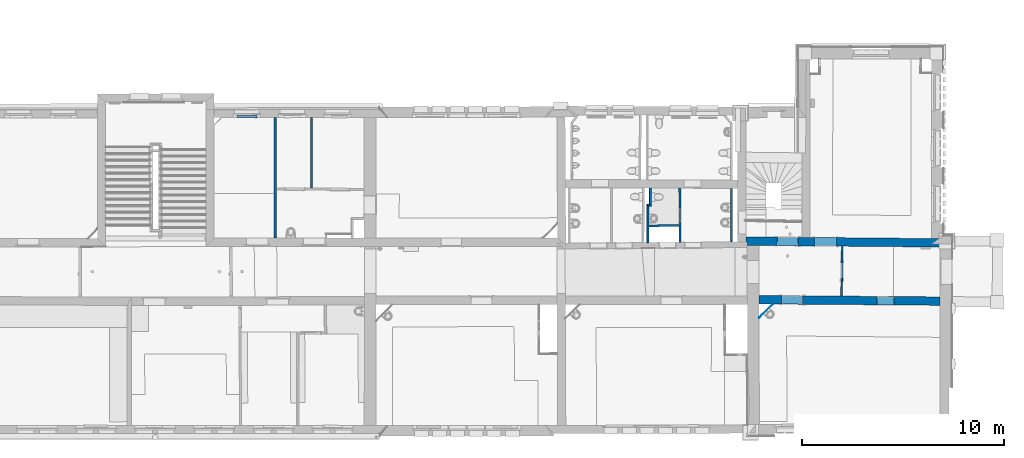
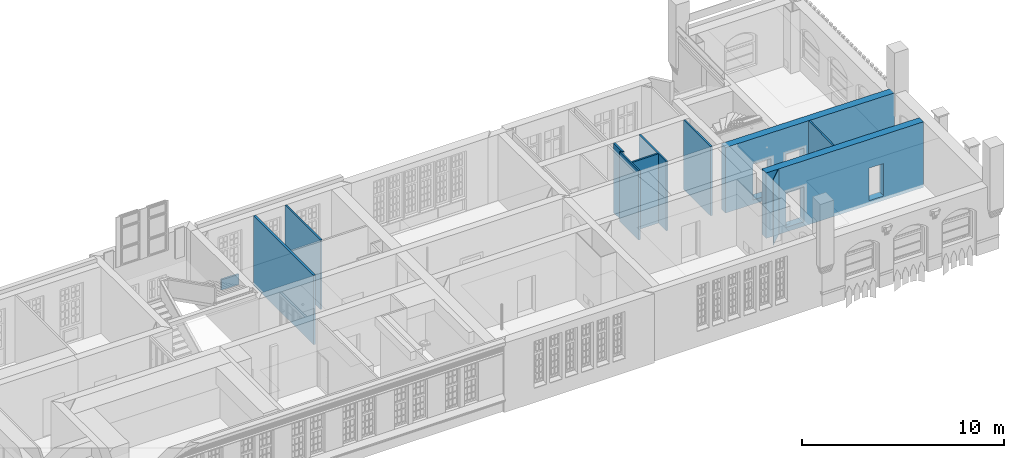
# One storey, part 31 of 90: 13 walls, 6 openings.
"""IFC2X3 building model written with IfcOpenShell, lengths in metres."""

import ifcopenshell
import ifcopenshell.guid

model = None  # the IFC model being written
_history = None  # IfcOwnerHistory: only IFC2X3 demands one
_inside = {}  # id of a spatial element -> (the spatial element, [elements in it])
_under = {}  # id of a project, library or spatial element -> (it, [spatial elements below it])
_declared = {}  # id of a project -> (the project, [libraries it declares])
_typed = {}  # id of a type object -> (the type object, [elements of that type])
_made_of = {}  # id of a material, layer set ... -> (it, [elements and type objects made of it])


def new_model(schema):
    """Start an empty IFC model of exactly this schema.

    Asked for "IFC4X3", IfcOpenShell would pick the latest addendum, in which some entities
    have other attributes; the version numbers below select the first issue.
    IFC2X3 requires an IfcOwnerHistory on every rooted entity: one is made here for all.
    """
    global model, _history
    if schema == "IFC4X3":
        model = ifcopenshell.file(schema_version=(4, 3, 0, 0))
    else:
        model = ifcopenshell.file(schema=schema)
    _inside.clear()
    _under.clear()
    _declared.clear()
    _typed.clear()
    _made_of.clear()
    _history = None
    if model.schema == "IFC2X3":
        org = make("IfcOrganization", Name="unknown")
        user = make(
            "IfcPersonAndOrganization",
            ThePerson=make("IfcPerson", FamilyName="unknown"),
            TheOrganization=org,
        )
        app = make(
            "IfcApplication",
            ApplicationDeveloper=org,
            Version="unknown",
            ApplicationFullName="unknown",
            ApplicationIdentifier="unknown",
        )
        _history = make(
            "IfcOwnerHistory",
            OwningUser=user,
            OwningApplication=app,
            ChangeAction="ADDED",
            CreationDate=0,
        )
    return model


def make(cls, **values):
    """One entity of the class cls with the attributes given. An attribute that is None is left unset."""
    return model.create_entity(
        cls, **{name: value for name, value in values.items() if value is not None}
    )


def entity(cls, *values):
    """Any entity or typed value of the class cls, its attributes in the order of the schema. None: left unset."""
    e = model.create_entity(cls)
    for i, value in enumerate(values):
        if value is not None:
            e[i] = value
    return e


def rooted(cls, **values):
    """An entity with a GlobalId (a new one), such as an element, a storey or a relation."""
    return make(cls, GlobalId=ifcopenshell.guid.new(), OwnerHistory=_history, **values)


def si_unit(unit_type, name, prefix=None):
    """IfcSIUnit, for example si_unit("LENGTHUNIT", "METRE", prefix="MILLI")."""
    return make("IfcSIUnit", UnitType=unit_type, Prefix=prefix, Name=name)


def converted_unit(unit_type, name, factor, base, dimensions=None, offset=None):
    """IfcConversionBasedUnit, such as the inch: factor (a typed value) times the base unit."""
    return make(
        "IfcConversionBasedUnit"
        if offset is None
        else "IfcConversionBasedUnitWithOffset",
        ConversionOffset=offset,
        Dimensions=None
        if dimensions is None
        else entity("IfcDimensionalExponents", *dimensions),
        UnitType=unit_type,
        Name=name,
        ConversionFactor=make(
            "IfcMeasureWithUnit", ValueComponent=factor, UnitComponent=base
        ),
    )


def derived_unit(unit_type, elements):
    """IfcDerivedUnit: a product of units, each with its exponent."""
    return make(
        "IfcDerivedUnit",
        Elements=[
            make("IfcDerivedUnitElement", Unit=unit, Exponent=power)
            for unit, power in elements
        ],
        UnitType=unit_type,
    )


def money_unit(currency):
    """IfcMonetaryUnit."""
    return make("IfcMonetaryUnit", Currency=currency)


def assignment(units):
    """IfcUnitAssignment: the units of a project."""
    return None if units is None else make("IfcUnitAssignment", Units=units)


def point(xyz):
    """IfcCartesianPoint."""
    return None if xyz is None else make("IfcCartesianPoint", Coordinates=xyz)


def direction(xyz):
    """IfcDirection."""
    return None if xyz is None else make("IfcDirection", DirectionRatios=xyz)


def frame(location, z_axis=None, x_axis=None):
    """IfcAxis2Placement3D, a coordinate frame: its origin and axes. An axis left out is left unset."""
    return make(
        "IfcAxis2Placement3D",
        Location=point(location),
        Axis=direction(z_axis),
        RefDirection=direction(x_axis),
    )


def frame_2d(location, x_axis=None):
    """IfcAxis2Placement2D, a coordinate frame in the plane: its origin and x axis."""
    return make(
        "IfcAxis2Placement2D", Location=point(location), RefDirection=direction(x_axis)
    )


def origin_with_axes():
    """The frame at (0, 0, 0) with the z axis (0, 0, 1) and the x axis (1, 0, 0) written out."""
    return frame((0.0, 0.0, 0.0), z_axis=(0.0, 0.0, 1.0), x_axis=(1.0, 0.0, 0.0))


def origin_2d_with_axis():
    """The frame at (0, 0) in the plane with the x axis (1, 0) written out."""
    return frame_2d((0.0, 0.0), x_axis=(1.0, 0.0))


def place(relative_to, where):
    """IfcLocalPlacement: puts the frame where relative to a parent placement (None: the world)."""
    return make(
        "IfcLocalPlacement", PlacementRelTo=relative_to, RelativePlacement=where
    )


def context(
    kind, dimensions, precision=None, world=None, true_north=None, identifier=None
):
    """IfcGeometricRepresentationContext, for example the 3D "Model" context."""
    return make(
        "IfcGeometricRepresentationContext",
        ContextIdentifier=identifier,
        ContextType=kind,
        CoordinateSpaceDimension=dimensions,
        Precision=precision,
        WorldCoordinateSystem=world,
        TrueNorth=true_north,
    )


def subcontext(parent, identifier, kind, view, scale=None):
    """IfcGeometricRepresentationSubContext, for example "Body" below "Model"."""
    return make(
        "IfcGeometricRepresentationSubContext",
        ContextIdentifier=identifier,
        ContextType=kind,
        ParentContext=parent,
        TargetScale=scale,
        TargetView=view,
    )


def project(units=None, contexts=None):
    """IfcProject with its units and contexts."""
    return rooted(
        "IfcProject",
        Name="project",
        RepresentationContexts=contexts,
        UnitsInContext=assignment(units),
    )


def spatial(cls, under=None, at=None, **own):
    """A site, building, storey or space (cls), placed at a placement, below another one or the project."""
    s = rooted(cls, ObjectPlacement=at, **own)
    if under is not None:
        _under.setdefault(under.id(), (under, []))[1].append(s)
    return s


def polyline(points):
    """IfcPolyline through the points."""
    return make("IfcPolyline", Points=[point(p) for p in points])


def profile(cls, at=None, kind="AREA", **sizes):
    """A parametric profile (cls). Its sizes go by their IFC names, for example OverallWidth=200.0."""
    return make(cls, ProfileType=kind, Position=at, **sizes)


def rectangle(**sizes):
    """IfcRectangleProfileDef."""
    return profile("IfcRectangleProfileDef", **sizes)


def outline(outer, holes=None, kind="AREA"):
    """IfcArbitraryClosedProfileDef: a profile drawn as a closed curve; with holes, ...WithVoids."""
    if holes is None:
        return make("IfcArbitraryClosedProfileDef", ProfileType=kind, OuterCurve=outer)
    return make(
        "IfcArbitraryProfileDefWithVoids",
        ProfileType=kind,
        OuterCurve=outer,
        InnerCurves=holes,
    )


def extrude(swept, where, along, depth):
    """IfcExtrudedAreaSolid: the profile swept, set in the frame where, extruded along a direction by depth."""
    return make(
        "IfcExtrudedAreaSolid",
        SweptArea=swept,
        Position=where,
        ExtrudedDirection=direction(along),
        Depth=depth,
    )


def shape(context_of_items, identifier, shape_type, items):
    """IfcShapeRepresentation: the items that make up one representation, for example the "Body"."""
    return make(
        "IfcShapeRepresentation",
        ContextOfItems=context_of_items,
        RepresentationIdentifier=identifier,
        RepresentationType=shape_type,
        Items=items,
    )


def material(Name=None, Category=None):
    """IfcMaterial."""
    return make("IfcMaterial", Name=Name, Category=Category)


def layer(
    of_material, thickness, ventilated=None, Name=None, Category=None, Priority=None
):
    """IfcMaterialLayer: one layer of a wall or slab, of a material (None: an air gap)."""
    return make(
        "IfcMaterialLayer",
        Material=of_material,
        LayerThickness=thickness,
        IsVentilated=ventilated,
        Name=Name,
        Category=Category,
        Priority=Priority,
    )


def layer_set(layers, Name=None):
    """IfcMaterialLayerSet."""
    return make("IfcMaterialLayerSet", MaterialLayers=layers, LayerSetName=Name)


def layer_usage(for_layer_set, set_direction, sense, offset, extent=None):
    """IfcMaterialLayerSetUsage: how a layer set lies in its element."""
    return make(
        "IfcMaterialLayerSetUsage",
        ForLayerSet=for_layer_set,
        LayerSetDirection=set_direction,
        DirectionSense=sense,
        OffsetFromReferenceLine=offset,
        ReferenceExtent=extent,
    )


def made_of(thing, what):
    """Note that an element or type object is made of a material, layer set ...; save() writes the relation."""
    if what is not None:
        _made_of.setdefault(what.id(), (what, []))[1].append(thing)
    return thing


def type_object(cls, material=None, **own):
    """A type object (cls), such as IfcWallType, which elements share."""
    return made_of(rooted(cls, **own), material)


def element(
    cls,
    number,
    at=None,
    inside=None,
    cuts=None,
    type_object=None,
    material=None,
    context=None,
    identifier="Body",
    shape_type=None,
    held_by="IfcProductDefinitionShape",
    body=None,
    shapes=None,
    **own,
):
    """One element of the class cls, such as IfcWall. Its Tag is "e" and its number.

    at: its placement. inside: the storey or other place that contains it. cuts: it is an
    opening in that element (IfcRelVoidsElement). A single representation is given by context,
    identifier, shape_type and body (its items); several are given by shapes. held_by: the class
    of the entity that holds the representations. save() writes the other relations.
    """
    e = rooted(cls, Tag="e%d" % number, ObjectPlacement=at, **own)
    if body is not None:
        shapes = [shape(context, identifier, shape_type, body)]
    if shapes is not None:
        e.Representation = make(held_by, Representations=shapes)
    if inside is not None:
        _inside.setdefault(inside.id(), (inside, []))[1].append(e)
    if cuts is not None:
        rooted(
            "IfcRelVoidsElement", RelatingBuildingElement=cuts, RelatedOpeningElement=e
        )
    if type_object is not None:
        _typed.setdefault(type_object.id(), (type_object, []))[1].append(e)
    return made_of(e, material)


def aggregate(whole, parts):
    """IfcRelAggregates: a whole, such as a stair, and the parts it consists of."""
    return rooted("IfcRelAggregates", RelatingObject=whole, RelatedObjects=parts)


def save(model, path):
    """Write the relations noted so far, then the file.

    IfcRelAggregates (storeys below a building ...), IfcRelContainedInSpatialStructure (elements
    in a storey), IfcRelDefinesByType, IfcRelAssociatesMaterial and IfcRelDeclares: one each for
    every whole, place, type object, material and project.
    """
    for whole, parts in _under.values():
        aggregate(whole, parts)
    for where, things in _inside.values():
        rooted(
            "IfcRelContainedInSpatialStructure",
            RelatedElements=things,
            RelatingStructure=where,
        )
    for kind, things in _typed.values():
        rooted("IfcRelDefinesByType", RelatedObjects=things, RelatingType=kind)
    for what, things in _made_of.values():
        rooted("IfcRelAssociatesMaterial", RelatedObjects=things, RelatingMaterial=what)
    for by, libraries in _declared.values():
        rooted("IfcRelDeclares", RelatingContext=by, RelatedDefinitions=libraries)
    model.write(path)


model = new_model("IFC2X3")

# Units and contexts
model_context = context("Model", 3, precision=1e-05, world=origin_with_axes(), true_north=direction((0.0, 1.0)))
body_context = subcontext(model_context, "Body", "Model", "MODEL_VIEW")
ifc_project = project(units=[si_unit("LENGTHUNIT", "METRE"), si_unit("AREAUNIT", "SQUARE_METRE"), si_unit("VOLUMEUNIT", "CUBIC_METRE"), converted_unit("PLANEANGLEUNIT", "DEGREE", entity("IfcPlaneAngleMeasure", 0.0174532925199), si_unit("PLANEANGLEUNIT", "RADIAN"), dimensions=[0, 0, 0, 0, 0, 0, 0]), money_unit("EUR"), converted_unit("TIMEUNIT", "Year", entity("IfcTimeMeasure", 31556926.0), si_unit("TIMEUNIT", "SECOND"), dimensions=[0, 0, 1, 0, 0, 0, 0]), si_unit("MASSUNIT", "GRAM", prefix="KILO"), si_unit("THERMODYNAMICTEMPERATUREUNIT", "DEGREE_CELSIUS"), si_unit("LUMINOUSINTENSITYUNIT", "LUMEN"), si_unit("ENERGYUNIT", "JOULE", prefix="MEGA"), derived_unit("THERMALCONDUCTANCEUNIT", [(si_unit("POWERUNIT", "WATT"), 1), (si_unit("LENGTHUNIT", "METRE"), -1), (si_unit("THERMODYNAMICTEMPERATUREUNIT", "KELVIN"), -1)]), derived_unit("SPECIFICHEATCAPACITYUNIT", [(si_unit("ENERGYUNIT", "JOULE"), 1), (si_unit("MASSUNIT", "GRAM", prefix="KILO"), -1), (si_unit("THERMODYNAMICTEMPERATUREUNIT", "KELVIN"), -1)]), derived_unit("MASSDENSITYUNIT", [(si_unit("MASSUNIT", "GRAM", prefix="KILO"), 1), (si_unit("VOLUMEUNIT", "CUBIC_METRE"), -1)])], contexts=[model_context])

# Site, building, storey
site_placement = place(None, origin_with_axes())
site = spatial("IfcSite", under=ifc_project, at=site_placement, Name="Gelände", CompositionType="ELEMENT")
building_placement = place(site_placement, origin_with_axes())
building = spatial("IfcBuilding", under=site, at=building_placement, Name="Gebäude", CompositionType="ELEMENT")
storey_placement = place(building_placement, frame((0.0, 0.0, 3.7), z_axis=(0.0, 0.0, 1.0), x_axis=(1.0, 0.0, 0.0)))
storey = spatial("IfcBuildingStorey", under=building, at=storey_placement, Name="1.OBERGESCHOSS", CompositionType="ELEMENT", Elevation=3.7)

# Wall, openings
ifc_material_1 = material(Name="05_ALLGEMEIN - TRAGENDE BAUTEILE")
ifc_layer_1 = layer(ifc_material_1, 0.42, ventilated="UNKNOWN")
ifc_layer_set_1 = layer_set([ifc_layer_1], Name="05_ALLGEMEIN - TRAGENDE BAUTEILE 0.42")
ifc_layer_usage_1 = layer_usage(ifc_layer_set_1, "AXIS2", "POSITIVE", 0.0)
wall_type_1 = type_object("IfcWallType", Name="05_ALLGEMEIN - TRAGENDE BAUTEILE 420", PredefinedType="ELEMENTEDWALL")
wall_1_placement = place(storey_placement, frame((32.1184363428, 16.7711772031, -0.1), z_axis=(0.0, 0.0, 1.0), x_axis=(-0.999971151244, 0.00759583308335, 0.0)))
wall_1 = element("IfcWallStandardCase", 1, at=wall_1_placement, inside=storey, type_object=wall_type_1, material=ifc_layer_usage_1, Name="Wand-041", ObjectType="ELEMENTEDWALL", context=body_context, shape_type="SweptSolid", body=[
    extrude(outline(polyline([(0.600014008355, 0.0), (9.57122082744, 0.0), (9.5665732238, 0.42), (0.597143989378, 0.42), (0.600014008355, 0.0)])), origin_with_axes(), (0.0, 0.0, 1.0), 3.97),
])
opening_1_placement = place(wall_1_placement, frame((7.91840655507, 0.0, 0.276363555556), z_axis=(0.0, 0.0, 1.0), x_axis=(1.0, 0.0, 0.0)))
element("IfcOpeningElement", 2, at=opening_1_placement, cuts=wall_1, Name="Tür-022", context=body_context, shape_type="SweptSolid", body=[
    extrude(rectangle(XDim=1.01327467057, YDim=2.135785, at=origin_2d_with_axis()), frame((0.0, -0.42, 1.0678925), z_axis=(0.0, 1.0, 0.0), x_axis=(-1.0, 0.0, 0.0)), (0.0, 0.0, 1.0), 1.26),
])
opening_2_placement = place(wall_1_placement, frame((3.28738782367, 0.0, 0.264166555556), z_axis=(0.0, 0.0, 1.0), x_axis=(1.0, 0.0, 0.0)))
element("IfcOpeningElement", 3, at=opening_2_placement, cuts=wall_1, Name="Tür-022", context=body_context, shape_type="SweptSolid", body=[
    extrude(rectangle(XDim=0.849238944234, YDim=1.967919, at=origin_2d_with_axis()), frame((0.0, -0.42, 0.9839595), z_axis=(0.0, 1.0, 0.0), x_axis=(-1.0, 0.0, 0.0)), (0.0, 0.0, 1.0), 1.26),
])

ifc_layer_usage_2 = layer_usage(ifc_layer_set_1, "AXIS2", "POSITIVE", 0.0)
wall_2_placement = place(storey_placement, frame((21.8936616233, 19.3315218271, -0.1), z_axis=(0.0, 0.0, 1.0), x_axis=(0.999957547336, -0.00921431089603, 0.0)))
wall_2 = element("IfcWallStandardCase", 4, at=wall_2_placement, inside=storey, type_object=wall_type_1, material=ifc_layer_usage_2, Name="Wand-043", ObjectType="ELEMENTEDWALL", context=body_context, shape_type="SweptSolid", body=[
    extrude(outline(polyline([(0.0, 0.0), (9.62706819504, 0.0), (9.62351835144, 0.42), (-0.00332249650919, 0.42), (0.0, 0.0)])), origin_with_axes(), (0.0, 0.0, 1.0), 3.97),
])
opening_3_placement = place(wall_2_placement, frame((2.07548967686, 0.0, 0.258140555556), z_axis=(0.0, 0.0, 1.0), x_axis=(1.0, 0.0, 0.0)))
element("IfcOpeningElement", 5, at=opening_3_placement, cuts=wall_2, Name="Tür-022", context=body_context, shape_type="SweptSolid", body=[
    extrude(rectangle(XDim=1.03221144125, YDim=2.180707, at=origin_2d_with_axis()), frame((0.0, 0.42, 1.0903535), z_axis=(0.0, -1.0, 0.0), x_axis=(1.0, 0.0, 0.0)), (0.0, 0.0, 1.0), 1.26),
])
opening_4_placement = place(wall_2_placement, frame((3.94808894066, 0.0, 0.287008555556), z_axis=(0.0, 0.0, 1.0), x_axis=(1.0, 0.0, 0.0)))
element("IfcOpeningElement", 6, at=opening_4_placement, cuts=wall_2, Name="Tür-022", context=body_context, shape_type="SweptSolid", body=[
    extrude(rectangle(XDim=1.02825387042, YDim=2.124225, at=origin_2d_with_axis()), frame((0.0, -0.42, 1.0621125), z_axis=(0.0, -1.0, 0.0), x_axis=(1.0, 0.0, 0.0)), (0.0, 0.0, -1.0), 1.26),
])

# Walls
ifc_material_2 = material(Name="43_Gipskarton")
ifc_layer_2 = layer(ifc_material_2, 0.03, ventilated="UNKNOWN")
ifc_layer_set_2 = layer_set([ifc_layer_2], Name="43_Gipskarton 0.03")
ifc_layer_usage_3 = layer_usage(ifc_layer_set_2, "AXIS2", "NEGATIVE", 0.0)
wall_type_2 = type_object("IfcWallType", Name="43_Gipskarton 30", PredefinedType="ELEMENTEDWALL")
wall_3_placement = place(storey_placement, frame((23.6890943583, 16.835206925, -0.1), z_axis=(0.0, 0.0, 1.0), x_axis=(-0.71412944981, -0.700013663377, 0.0)))
element("IfcWallStandardCase", 7, at=wall_3_placement, inside=storey, type_object=wall_type_2, material=ifc_layer_usage_3, Name="Wand-042", ObjectType="ELEMENTEDWALL", context=body_context, shape_type="SweptSolid", body=[
    extrude(outline(polyline([(0.625535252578, -0.03), (1.56392986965, -0.03), (1.59313347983, 0.0), (0.59539177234, 0.0), (0.625535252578, -0.03)])), origin_with_axes(), (0.0, 0.0, 1.0), 3.97),
])
ifc_material_3 = material(Name="01_ALLGEMEIN - BAUTEIL")
ifc_layer_3 = layer(ifc_material_3, 0.105, ventilated="UNKNOWN")
ifc_layer_set_3 = layer_set([ifc_layer_3], Name="01_ALLGEMEIN - BAUTEIL 0.105")
ifc_layer_usage_4 = layer_usage(ifc_layer_set_3, "AXIS2", "NEGATIVE", 0.0)
wall_type_3 = type_object("IfcWallType", Name="01_ALLGEMEIN - BAUTEIL 105", PredefinedType="ELEMENTEDWALL")
wall_4_placement = place(storey_placement, frame((-2.32924105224, 25.6536972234, 0.222143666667), z_axis=(0.0, 0.0, 1.0), x_axis=(-0.99994361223, 0.010619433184, 0.0)))
element("IfcWallStandardCase", 8, at=wall_4_placement, inside=storey, type_object=wall_type_3, material=ifc_layer_usage_4, Name="Wand-035", ObjectType="ELEMENTEDWALL", context=body_context, shape_type="SweptSolid", body=[
    extrude(outline(polyline([(0.0, -0.105), (0.995124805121, -0.105), (0.995124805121, 0.0), (0.0, 0.0), (0.0, -0.105)])), origin_with_axes(), (0.0, 0.0, 1.0), 0.626381),
])

# Wall, opening
ifc_layer_4 = layer(ifc_material_2, 0.1, ventilated="UNKNOWN")
ifc_layer_set_4 = layer_set([ifc_layer_4], Name="43_Gipskarton 0.1")
ifc_layer_usage_5 = layer_usage(ifc_layer_set_4, "AXIS2", "NEGATIVE", 0.1)
wall_type_4 = type_object("IfcWallType", Name="43_Gipskarton 100", PredefinedType="ELEMENTEDWALL")
wall_5_placement = place(storey_placement, frame((18.6821724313, 19.1959442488, -0.1), z_axis=(0.0, 0.0, 1.0), x_axis=(-0.0038440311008, 0.999992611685, 0.0)))
wall_5 = element("IfcWallStandardCase", 9, at=wall_5_placement, inside=storey, type_object=wall_type_4, material=ifc_layer_usage_5, Name="Wand-040", ObjectType="ELEMENTEDWALL", context=body_context, shape_type="SweptSolid", body=[
    extrude(outline(polyline([(0.280001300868, 0.0), (2.96598838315, 0.0), (2.96668059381, 0.1), (0.27969647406, 0.1), (0.280001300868, 0.0)])), origin_with_axes(), (0.0, 0.0, 1.0), 4.2),
])
opening_5_placement = place(wall_5_placement, frame((1.62332681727, 0.0, 0.235571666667), z_axis=(0.0, 0.0, 1.0), x_axis=(1.0, 0.0, 0.0)))
element("IfcOpeningElement", 10, at=opening_5_placement, cuts=wall_5, Name="Tür-022", context=body_context, shape_type="SweptSolid", body=[
    extrude(rectangle(XDim=0.705864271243, YDim=1.962873, at=origin_2d_with_axis()), frame((0.0, -0.1, 0.9814365), z_axis=(0.0, -1.0, 0.0), x_axis=(1.0, 0.0, 0.0)), (0.0, 0.0, -1.0), 0.3),
])

# Walls
ifc_layer_usage_6 = layer_usage(ifc_layer_set_4, "AXIS2", "NEGATIVE", 0.1)
wall_6_placement = place(storey_placement, frame((18.677696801, 20.360242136, -0.1), z_axis=(0.0, 0.0, 1.0), x_axis=(-0.999964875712, -0.00838136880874, 0.0)))
element("IfcWallStandardCase", 11, at=wall_6_placement, inside=storey, type_object=wall_type_4, material=ifc_layer_usage_6, Name="Wand-040", ObjectType="ELEMENTEDWALL", context=body_context, shape_type="SweptSolid", body=[
    extrude(outline(polyline([(0.100001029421, 0.0), (1.58816794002, 0.0), (1.58912341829, 0.1), (0.100454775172, 0.1), (0.100001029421, 0.0)])), origin_with_axes(), (0.0, 0.0, 1.0), 4.2),
])
ifc_layer_usage_7 = layer_usage(ifc_layer_set_4, "AXIS2", "NEGATIVE", 0.1)
wall_7_placement = place(storey_placement, frame((0.319474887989, 26.0678797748, -0.1), z_axis=(0.0, 0.0, 1.0), x_axis=(0.000800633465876, -0.999999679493, 0.0)))
element("IfcWallStandardCase", 12, at=wall_7_placement, inside=storey, type_object=wall_type_4, material=ifc_layer_usage_7, Name="Wand-040", ObjectType="ELEMENTEDWALL", context=body_context, shape_type="SweptSolid", body=[
    extrude(outline(polyline([(0.400000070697, 0.0), (3.90044568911, 0.0), (3.90093656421, 0.1), (0.399940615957, 0.1), (0.400000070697, 0.0)])), origin_with_axes(), (0.0, 0.0, 1.0), 4.2),
])
ifc_layer_usage_8 = layer_usage(ifc_layer_set_4, "AXIS2", "NEGATIVE", 0.1)
wall_8_placement = place(storey_placement, frame((17.0882216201, 19.184958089, -0.1), z_axis=(0.0, 0.0, 1.0), x_axis=(0.00117302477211, 0.999999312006, 0.0)))
element("IfcWallStandardCase", 13, at=wall_8_placement, inside=storey, type_object=wall_type_4, material=ifc_layer_usage_8, Name="Wand-040", ObjectType="ELEMENTEDWALL", context=body_context, shape_type="SweptSolid", body=[
    extrude(outline(polyline([(0.280009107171, 0.0), (2.07853478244, 0.0), (2.18482109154, 0.1), (0.279202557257, 0.1), (0.280009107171, 0.0)])), origin_with_axes(), (0.0, 0.0, 1.0), 4.2),
])
ifc_layer_usage_9 = layer_usage(ifc_layer_set_4, "AXIS2", "NEGATIVE", 0.1)
wall_9_placement = place(storey_placement, frame((21.1252305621, 22.1543559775, -0.1), z_axis=(0.0, 0.0, 1.0), x_axis=(0.00193720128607, -0.999998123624, 0.0)))
element("IfcWallStandardCase", 14, at=wall_9_placement, inside=storey, type_object=wall_type_4, material=ifc_layer_usage_9, Name="Wand-041", ObjectType="ELEMENTEDWALL", context=body_context, shape_type="SweptSolid", body=[
    extrude(outline(polyline([(0.0, 0.0), (2.66153598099, 0.0), (2.66104046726, 0.1), (0.000501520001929, 0.1), (0.0, 0.0)])), origin_with_axes(), (0.0, 0.0, 1.0), 4.2),
])
ifc_layer_usage_10 = layer_usage(ifc_layer_set_4, "AXIS2", "NEGATIVE", 0.1)
wall_10_placement = place(storey_placement, frame((17.0906597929, 21.2634914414, -0.1), z_axis=(0.0, 0.0, 1.0), x_axis=(0.998072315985, -0.062061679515, 0.0)))
element("IfcWallStandardCase", 15, at=wall_10_placement, inside=storey, type_object=wall_type_4, material=ifc_layer_usage_10, Name="Wand-041", ObjectType="ELEMENTEDWALL", context=body_context, shape_type="SweptSolid", body=[
    extrude(outline(polyline([(0.0, 0.0), (0.125900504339, 0.0), (0.0185082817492, 0.1), (-0.106286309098, 0.1), (0.0, 0.0)])), origin_with_axes(), (0.0, 0.0, 1.0), 4.2),
])
ifc_layer_usage_11 = layer_usage(ifc_layer_set_4, "AXIS2", "NEGATIVE", 0.1)
wall_11_placement = place(storey_placement, frame((17.2163176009, 21.2556778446, -0.1), z_axis=(0.0, 0.0, 1.0), x_axis=(-0.00915548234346, 0.999958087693, 0.0)))
element("IfcWallStandardCase", 16, at=wall_11_placement, inside=storey, type_object=wall_type_4, material=ifc_layer_usage_11, Name="Wand-042", ObjectType="ELEMENTEDWALL", context=body_context, shape_type="SweptSolid", body=[
    extrude(outline(polyline([(0.0, 0.0), (0.910773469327, 0.0), (0.911996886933, 0.1), (0.107392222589, 0.1), (0.0, 0.0)])), origin_with_axes(), (0.0, 0.0, 1.0), 4.2),
])
ifc_layer_5 = layer(ifc_material_1, 0.126794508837, ventilated="UNKNOWN")
ifc_layer_set_5 = layer_set([ifc_layer_5], Name="05_ALLGEMEIN - TRAGENDE BAUTEILE 0.126795")
ifc_layer_usage_12 = layer_usage(ifc_layer_set_5, "AXIS2", "NEGATIVE", 0.126794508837)
wall_type_5 = type_object("IfcWallType", Name="05_ALLGEMEIN - TRAGENDE BAUTEILE 127", PredefinedType="ELEMENTEDWALL")
wall_12_placement = place(storey_placement, frame((-1.37840329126, 19.2771481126, -0.1), z_axis=(0.0, 0.0, 1.0), x_axis=(-0.000221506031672, 0.999999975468, 0.0)))
element("IfcWallStandardCase", 17, at=wall_12_placement, inside=storey, type_object=wall_type_5, material=ifc_layer_usage_12, Name="Wand-038", ObjectType="ELEMENTEDWALL", context=body_context, shape_type="SweptSolid", body=[
    extrude(outline(polyline([(0.414615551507, 0.0), (6.38836060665, 0.0), (6.38821179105, 0.126794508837), (0.414606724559, 0.126794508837), (0.414615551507, 0.0)])), origin_with_axes(), (0.0, 0.0, 1.0), 4.2),
])

# Wall, opening
ifc_layer_6 = layer(ifc_material_1, 0.0959783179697, ventilated="UNKNOWN")
ifc_layer_set_6 = layer_set([ifc_layer_6], Name="05_ALLGEMEIN - TRAGENDE BAUTEILE 0.0959783")
ifc_layer_usage_13 = layer_usage(ifc_layer_set_6, "AXIS2", "POSITIVE", 0.0)
wall_type_6 = type_object("IfcWallType", Name="05_ALLGEMEIN - TRAGENDE BAUTEILE 96", PredefinedType="ELEMENTEDWALL")
wall_13_placement = place(storey_placement, frame((26.6309141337, 19.2878694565, -0.1), z_axis=(0.0, 0.0, 1.0), x_axis=(-0.0139558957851, -0.999902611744, 0.0)))
wall_13 = element("IfcWallStandardCase", 18, at=wall_13_placement, inside=storey, type_object=wall_type_6, material=ifc_layer_usage_13, Name="Wand-042", ObjectType="ELEMENTEDWALL", context=body_context, shape_type="SweptSolid", body=[
    extrude(outline(polyline([(0.0, 0.0), (2.47498741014, 0.0), (2.47437693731, 0.0959783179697), (-0.00045512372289, 0.0959783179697), (0.0, 0.0)])), origin_with_axes(), (0.0, 0.0, 1.0), 3.97),
])
opening_6_placement = place(wall_13_placement, frame((1.22268199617, 0.0, 0.264785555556), z_axis=(0.0, 0.0, 1.0), x_axis=(1.0, 0.0, 0.0)))
element("IfcOpeningElement", 19, at=opening_6_placement, cuts=wall_13, Name="Tür-022", context=body_context, shape_type="SweptSolid", body=[
    extrude(rectangle(XDim=0.772754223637, YDim=2.184121, at=origin_2d_with_axis()), frame((0.0, 0.0959783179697, 1.0920605), z_axis=(0.0, 1.0, 0.0), x_axis=(1.0, 0.0, 0.0)), (0.0, 0.0, -1.0), 0.287934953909),
])

save(model, "model.ifc")
